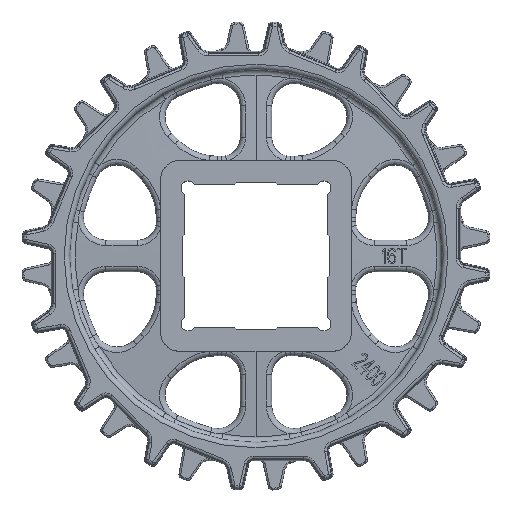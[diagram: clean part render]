
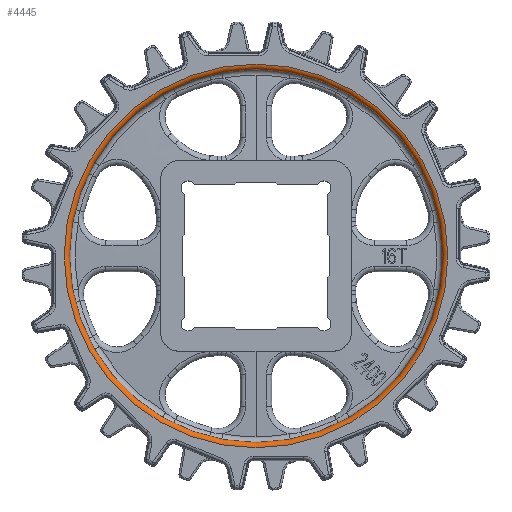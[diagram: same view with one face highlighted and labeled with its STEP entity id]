
A CAD part, top view. The second image highlights one B-rep face of the part: STEP entity #4445.
In plain terms, the highlighted toroidal (fillet/blend) face has major radius 53.728 mm and minor radius 1.5 mm.
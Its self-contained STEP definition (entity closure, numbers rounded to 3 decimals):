
#639=TOROIDAL_SURFACE('',#29215,53.728,1.5);
#4445=ADVANCED_FACE('',(#6794,#6795),#639,.T.);
#6794=FACE_BOUND('',#6825,.T.);
#6795=FACE_BOUND('',#6826,.T.);
#6825=EDGE_LOOP('',(#10814));
#6826=EDGE_LOOP('',(#10815,#10816));
#8726=CIRCLE('',#29075,53.728);
#8850=CIRCLE('',#29203,52.228);
#8860=CIRCLE('',#29214,52.228);
#10814=ORIENTED_EDGE('',*,*,#21722,.F.);
#10815=ORIENTED_EDGE('',*,*,#21976,.F.);
#10816=ORIENTED_EDGE('',*,*,#21996,.F.);
#19246=VERTEX_POINT('',#40842);
#19500=VERTEX_POINT('',#41390);
#19501=VERTEX_POINT('',#41391);
#21722=EDGE_CURVE('',#19246,#19246,#8726,.T.);
#21976=EDGE_CURVE('',#19500,#19501,#8850,.T.);
#21996=EDGE_CURVE('',#19501,#19500,#8860,.T.);
#29075=AXIS2_PLACEMENT_3D('',#40841,#32514,#32515);
#29203=AXIS2_PLACEMENT_3D('',#41389,#32892,#32893);
#29214=AXIS2_PLACEMENT_3D('',#41466,#32916,#32917);
#29215=AXIS2_PLACEMENT_3D('',#41467,#32918,#32919);
#32514=DIRECTION('',(0.,0.,-1.));
#32515=DIRECTION('',(1.,0.,0.));
#32892=DIRECTION('',(0.,0.,1.));
#32893=DIRECTION('',(1.,0.,0.));
#32916=DIRECTION('',(0.,0.,1.));
#32917=DIRECTION('',(1.,0.,0.));
#32918=DIRECTION('',(0.,0.,1.));
#32919=DIRECTION('',(1.,0.,0.));
#40841=CARTESIAN_POINT('',(0.,0.,6.795));
#40842=CARTESIAN_POINT('',(53.728,0.,6.795));
#41389=CARTESIAN_POINT('',(0.,0.,5.295));
#41390=CARTESIAN_POINT('',(0.,52.228,5.295));
#41391=CARTESIAN_POINT('',(0.,-52.228,5.295));
#41466=CARTESIAN_POINT('',(0.,0.,5.295));
#41467=CARTESIAN_POINT('',(0.,0.,5.295));
